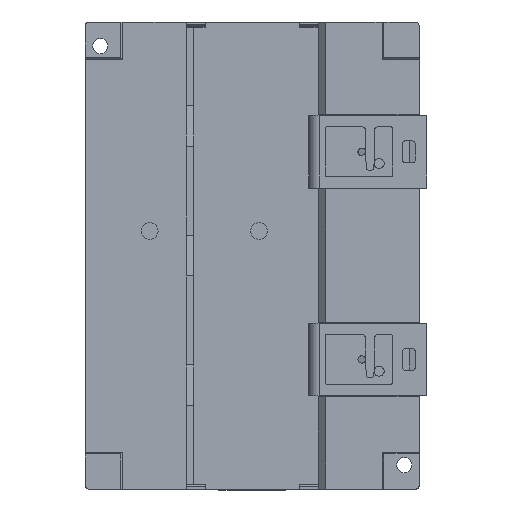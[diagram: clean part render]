
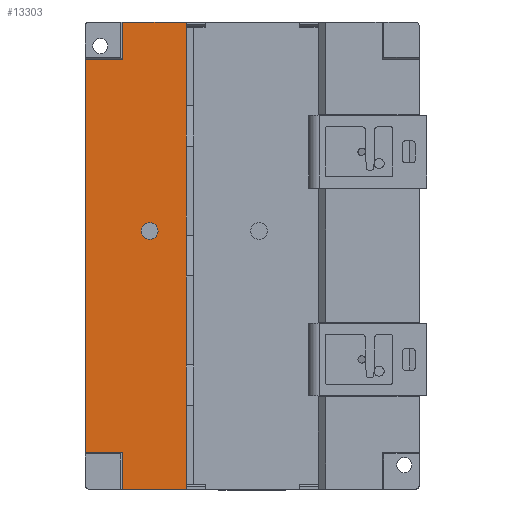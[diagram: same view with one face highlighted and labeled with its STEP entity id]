
A CAD part, front view. The second image highlights one B-rep face of the part: STEP entity #13303.
In plain terms, the highlighted planar face has unit normal (0, -1, 0).
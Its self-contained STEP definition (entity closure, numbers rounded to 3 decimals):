
#892 = VERTEX_POINT ( 'NONE', #68564 ) ;
#933 = VERTEX_POINT ( 'NONE', #13419 ) ;
#1781 = LINE ( 'NONE', #26768, #28723 ) ;
#1927 = VERTEX_POINT ( 'NONE', #78129 ) ;
#2600 = ORIENTED_EDGE ( 'NONE', *, *, #79946, .T. ) ;
#2745 = VERTEX_POINT ( 'NONE', #56875 ) ;
#2984 = VECTOR ( 'NONE', #30572, 1000. ) ;
#3091 = EDGE_CURVE ( 'NONE', #60711, #61976, #26020, .T. ) ;
#4566 = EDGE_CURVE ( 'NONE', #20526, #2745, #75085, .T. ) ;
#4950 = CARTESIAN_POINT ( 'NONE',  ( -27.322, -15.37, 189. ) ) ;
#5750 = EDGE_CURVE ( 'NONE', #892, #43693, #30205, .T. ) ;
#6473 = FACE_BOUND ( 'NONE', #33802, .T. ) ;
#6655 = EDGE_CURVE ( 'NONE', #36274, #52938, #56097, .T. ) ;
#6663 = DIRECTION ( 'NONE',  ( 0., 0., 1. ) ) ;
#7741 = CARTESIAN_POINT ( 'NONE',  ( -27.322, -15.37, 131.5 ) ) ;
#9566 = CARTESIAN_POINT ( 'NONE',  ( -44.572, -15.37, 63. ) ) ;
#9646 = VERTEX_POINT ( 'NONE', #60832 ) ;
#11162 = LINE ( 'NONE', #23906, #23731 ) ;
#11193 = FACE_OUTER_BOUND ( 'NONE', #46089, .T. ) ;
#11297 = LINE ( 'NONE', #9566, #22851 ) ;
#11437 = ORIENTED_EDGE ( 'NONE', *, *, #5750, .F. ) ;
#11789 = CARTESIAN_POINT ( 'NONE',  ( -54.572, -15.37, 189. ) ) ;
#12135 = DIRECTION ( 'NONE',  ( 0., 0., 1. ) ) ;
#12275 = CARTESIAN_POINT ( 'NONE',  ( -44.572, -15.37, 63. ) ) ;
#13303 = ADVANCED_FACE ( 'NONE', ( #6473, #11193 ), #25286, .F. ) ;
#13419 = CARTESIAN_POINT ( 'NONE',  ( -27.322, -15.37, 155.5 ) ) ;
#13802 = ORIENTED_EDGE ( 'NONE', *, *, #35654, .T. ) ;
#15731 = DIRECTION ( 'NONE',  ( 0., 0., -1. ) ) ;
#16909 = VECTOR ( 'NONE', #47096, 1000. ) ;
#17129 = LINE ( 'NONE', #77609, #58736 ) ;
#17795 = LINE ( 'NONE', #4950, #42903 ) ;
#19357 = CARTESIAN_POINT ( 'NONE',  ( -44.572, -15.37, 189. ) ) ;
#20526 = VERTEX_POINT ( 'NONE', #53016 ) ;
#21150 = DIRECTION ( 'NONE',  ( -1., 0., 0. ) ) ;
#21859 = CARTESIAN_POINT ( 'NONE',  ( -37.222, -15.37, 132.6 ) ) ;
#22851 = VECTOR ( 'NONE', #47108, 1000. ) ;
#23731 = VECTOR ( 'NONE', #54432, 1000. ) ;
#23861 = CARTESIAN_POINT ( 'NONE',  ( -54.572, -15.37, 63. ) ) ;
#23906 = CARTESIAN_POINT ( 'NONE',  ( -54.572, -15.37, 189. ) ) ;
#24866 = ORIENTED_EDGE ( 'NONE', *, *, #3091, .T. ) ;
#25286 = PLANE ( 'NONE',  #74252 ) ;
#26020 = LINE ( 'NONE', #23861, #2984 ) ;
#26768 = CARTESIAN_POINT ( 'NONE',  ( -27.322, -15.37, 189. ) ) ;
#28180 = CARTESIAN_POINT ( 'NONE',  ( -27.322, -15.37, 189. ) ) ;
#28466 = CARTESIAN_POINT ( 'NONE',  ( -27.322, -15.37, 189. ) ) ;
#28723 = VECTOR ( 'NONE', #39989, 1000. ) ;
#29602 = CARTESIAN_POINT ( 'NONE',  ( -54.572, -15.37, 189. ) ) ;
#30205 = CIRCLE ( 'NONE', #76038, 2.25 ) ;
#30347 = DIRECTION ( 'NONE',  ( 0., -1., 0. ) ) ;
#30433 = DIRECTION ( 'NONE',  ( 0., 1., 0. ) ) ;
#30572 = DIRECTION ( 'NONE',  ( 1., 0., 0. ) ) ;
#31133 = DIRECTION ( 'NONE',  ( 0., 0., -1. ) ) ;
#31168 = EDGE_CURVE ( 'NONE', #1927, #9646, #76987, .T. ) ;
#31383 = VERTEX_POINT ( 'NONE', #7741 ) ;
#31684 = EDGE_CURVE ( 'NONE', #1927, #36274, #71023, .T. ) ;
#32005 = EDGE_CURVE ( 'NONE', #933, #2745, #64011, .T. ) ;
#33802 = EDGE_LOOP ( 'NONE', ( #38757, #11437 ) ) ;
#34986 = EDGE_CURVE ( 'NONE', #933, #31383, #48124, .T. ) ;
#35422 = VECTOR ( 'NONE', #67484, 1000. ) ;
#35654 = EDGE_CURVE ( 'NONE', #44376, #53379, #45104, .T. ) ;
#35749 = VECTOR ( 'NONE', #6663, 1000. ) ;
#36274 = VERTEX_POINT ( 'NONE', #47998 ) ;
#37448 = EDGE_CURVE ( 'NONE', #52938, #20526, #11162, .T. ) ;
#38757 = ORIENTED_EDGE ( 'NONE', *, *, #66168, .F. ) ;
#39031 = CARTESIAN_POINT ( 'NONE',  ( -27.322, -15.37, 63. ) ) ;
#39470 = CARTESIAN_POINT ( 'NONE',  ( -37.222, -15.37, 130.35 ) ) ;
#39989 = DIRECTION ( 'NONE',  ( 0., 0., -1. ) ) ;
#40849 = CARTESIAN_POINT ( 'NONE',  ( -54.572, -15.37, 179. ) ) ;
#41204 = VECTOR ( 'NONE', #12135, 1000. ) ;
#41830 = CARTESIAN_POINT ( 'NONE',  ( -44.572, -15.37, 73. ) ) ;
#42698 = ORIENTED_EDGE ( 'NONE', *, *, #76998, .F. ) ;
#42903 = VECTOR ( 'NONE', #55703, 1000. ) ;
#43099 = DIRECTION ( 'NONE',  ( 0., 0., 1. ) ) ;
#43693 = VERTEX_POINT ( 'NONE', #39470 ) ;
#44376 = VERTEX_POINT ( 'NONE', #73631 ) ;
#45104 = LINE ( 'NONE', #74529, #41204 ) ;
#45752 = DIRECTION ( 'NONE',  ( 0., 0., 1. ) ) ;
#46089 = EDGE_LOOP ( 'NONE', ( #76071, #24866, #42698, #13802, #78383, #2600, #50127, #75364, #70789, #65708, #76010, #67541, #71460, #52145 ) ) ;
#47096 = DIRECTION ( 'NONE',  ( 1., 0., 0. ) ) ;
#47108 = DIRECTION ( 'NONE',  ( 0., 0., 1. ) ) ;
#47922 = EDGE_CURVE ( 'NONE', #59570, #53379, #1781, .T. ) ;
#47998 = CARTESIAN_POINT ( 'NONE',  ( -44.572, -15.37, 179. ) ) ;
#48124 = LINE ( 'NONE', #28180, #78016 ) ;
#49009 = CARTESIAN_POINT ( 'NONE',  ( -37.222, -15.37, 132.6 ) ) ;
#50127 = ORIENTED_EDGE ( 'NONE', *, *, #34986, .F. ) ;
#50404 = VECTOR ( 'NONE', #56641, 1000. ) ;
#52145 = ORIENTED_EDGE ( 'NONE', *, *, #74868, .F. ) ;
#52743 = CARTESIAN_POINT ( 'NONE',  ( -27.322, -15.37, 120.5 ) ) ;
#52938 = VERTEX_POINT ( 'NONE', #19357 ) ;
#53016 = CARTESIAN_POINT ( 'NONE',  ( -27.322, -15.37, 189. ) ) ;
#53379 = VERTEX_POINT ( 'NONE', #79831 ) ;
#54432 = DIRECTION ( 'NONE',  ( 1., 0., 0. ) ) ;
#55140 = VECTOR ( 'NONE', #45752, 1000. ) ;
#55703 = DIRECTION ( 'NONE',  ( 0., 0., -1. ) ) ;
#56097 = LINE ( 'NONE', #63123, #35749 ) ;
#56641 = DIRECTION ( 'NONE',  ( 0., 0., 1. ) ) ;
#56875 = CARTESIAN_POINT ( 'NONE',  ( -27.322, -15.37, 166.5 ) ) ;
#58736 = VECTOR ( 'NONE', #21150, 1000. ) ;
#59436 = DIRECTION ( 'NONE',  ( 0., 0., -1. ) ) ;
#59570 = VERTEX_POINT ( 'NONE', #52743 ) ;
#60665 = VECTOR ( 'NONE', #71682, 1000. ) ;
#60711 = VERTEX_POINT ( 'NONE', #12275 ) ;
#60832 = CARTESIAN_POINT ( 'NONE',  ( -54.572, -15.37, 73. ) ) ;
#61724 = CIRCLE ( 'NONE', #67251, 2.25 ) ;
#61976 = VERTEX_POINT ( 'NONE', #74607 ) ;
#63123 = CARTESIAN_POINT ( 'NONE',  ( -44.572, -15.37, 189. ) ) ;
#64011 = LINE ( 'NONE', #39031, #50404 ) ;
#65708 = ORIENTED_EDGE ( 'NONE', *, *, #37448, .F. ) ;
#65939 = DIRECTION ( 'NONE',  ( 0., -1., 0. ) ) ;
#66168 = EDGE_CURVE ( 'NONE', #43693, #892, #61724, .T. ) ;
#67251 = AXIS2_PLACEMENT_3D ( 'NONE', #49009, #30347, #31133 ) ;
#67484 = DIRECTION ( 'NONE',  ( 0., 0., -1. ) ) ;
#67541 = ORIENTED_EDGE ( 'NONE', *, *, #31684, .F. ) ;
#68465 = CARTESIAN_POINT ( 'NONE',  ( -27.322, -15.37, 63. ) ) ;
#68564 = CARTESIAN_POINT ( 'NONE',  ( -37.222, -15.37, 134.85 ) ) ;
#70789 = ORIENTED_EDGE ( 'NONE', *, *, #4566, .F. ) ;
#71023 = LINE ( 'NONE', #40849, #16909 ) ;
#71460 = ORIENTED_EDGE ( 'NONE', *, *, #31168, .T. ) ;
#71682 = DIRECTION ( 'NONE',  ( 0., 0., -1. ) ) ;
#73494 = VERTEX_POINT ( 'NONE', #41830 ) ;
#73495 = LINE ( 'NONE', #68465, #55140 ) ;
#73631 = CARTESIAN_POINT ( 'NONE',  ( -27.322, -15.37, 85.5 ) ) ;
#74252 = AXIS2_PLACEMENT_3D ( 'NONE', #11789, #30433, #43099 ) ;
#74529 = CARTESIAN_POINT ( 'NONE',  ( -27.322, -15.37, 63. ) ) ;
#74607 = CARTESIAN_POINT ( 'NONE',  ( -27.322, -15.37, 63. ) ) ;
#74868 = EDGE_CURVE ( 'NONE', #73494, #9646, #17129, .T. ) ;
#75085 = LINE ( 'NONE', #28466, #60665 ) ;
#75364 = ORIENTED_EDGE ( 'NONE', *, *, #32005, .T. ) ;
#76010 = ORIENTED_EDGE ( 'NONE', *, *, #6655, .F. ) ;
#76038 = AXIS2_PLACEMENT_3D ( 'NONE', #21859, #65939, #59436 ) ;
#76071 = ORIENTED_EDGE ( 'NONE', *, *, #76501, .F. ) ;
#76501 = EDGE_CURVE ( 'NONE', #60711, #73494, #11297, .T. ) ;
#76987 = LINE ( 'NONE', #29602, #35422 ) ;
#76998 = EDGE_CURVE ( 'NONE', #44376, #61976, #17795, .T. ) ;
#77609 = CARTESIAN_POINT ( 'NONE',  ( -54.572, -15.37, 73. ) ) ;
#78016 = VECTOR ( 'NONE', #15731, 1000. ) ;
#78129 = CARTESIAN_POINT ( 'NONE',  ( -54.572, -15.37, 179. ) ) ;
#78383 = ORIENTED_EDGE ( 'NONE', *, *, #47922, .F. ) ;
#79831 = CARTESIAN_POINT ( 'NONE',  ( -27.322, -15.37, 96.5 ) ) ;
#79946 = EDGE_CURVE ( 'NONE', #59570, #31383, #73495, .T. ) ;
